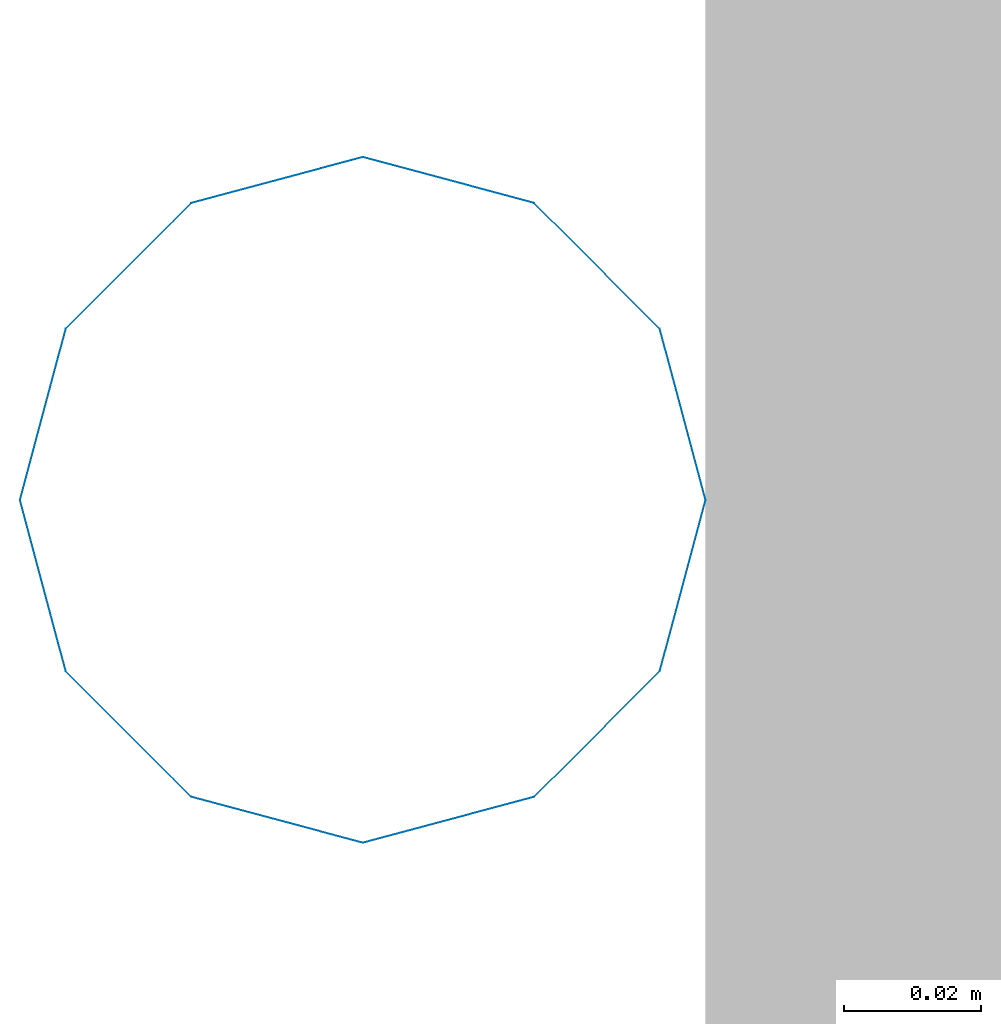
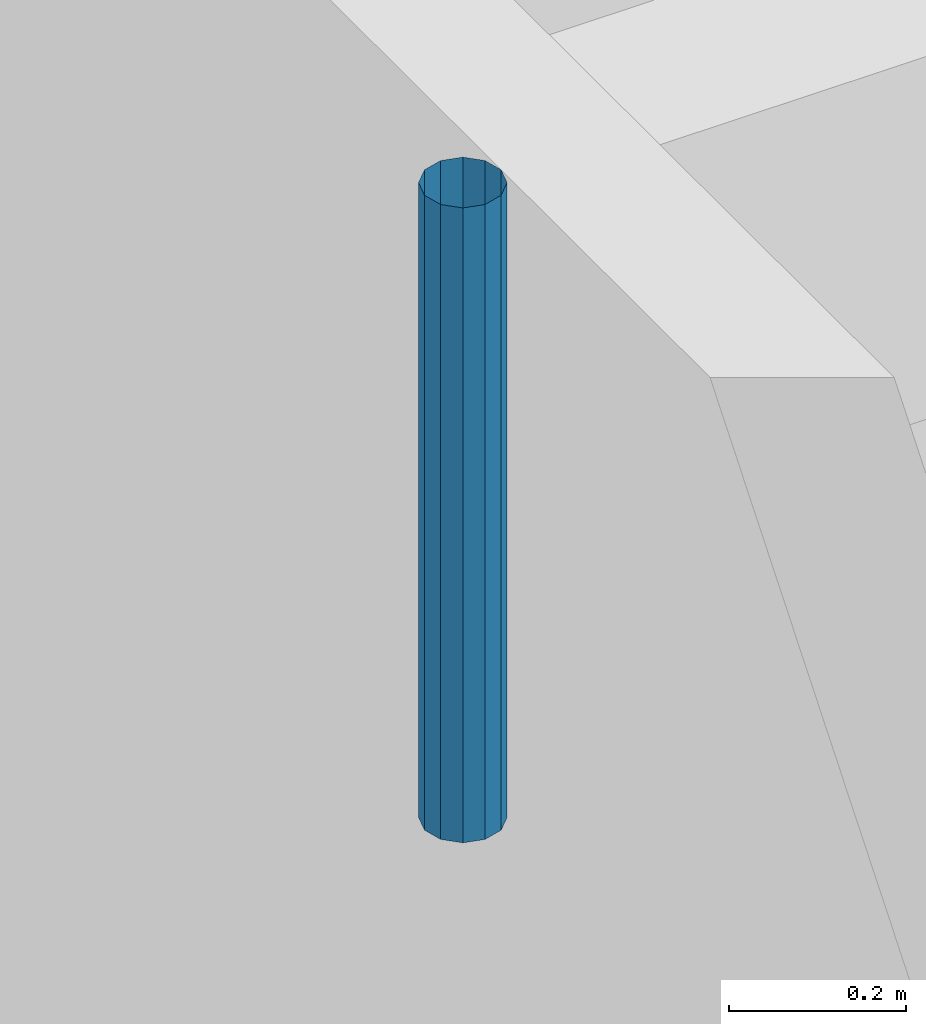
# One storey, part 35 of 41: 1 discrete accessory.
"""IFC2X3 building model written with IfcOpenShell, lengths in millimetres."""

from ifc_helpers import new_model, entity, si_unit, converted_unit, derived_unit, money_unit, direction, frame, origin_with_axes, place, context, subcontext, project, spatial, open_shell, surface_model, type_object, element, save


model = new_model("IFC2X3")

# Units and contexts
model_context = context("Model", 3, precision=0.01, world=origin_with_axes(), true_north=direction((0.0, 1.0)))
body_context = subcontext(model_context, "Body", "Model", "MODEL_VIEW")
ifc_project = project(units=[si_unit("LENGTHUNIT", "METRE", prefix="MILLI"), si_unit("AREAUNIT", "SQUARE_METRE"), si_unit("VOLUMEUNIT", "CUBIC_METRE"), converted_unit("PLANEANGLEUNIT", "DEGREE", entity("IfcPlaneAngleMeasure", 0.0174532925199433), si_unit("PLANEANGLEUNIT", "RADIAN"), dimensions=[0, 0, 0, 0, 0, 0, 0]), money_unit("USD"), converted_unit("TIMEUNIT", "Year", entity("IfcTimeMeasure", 31557600.0), si_unit("TIMEUNIT", "SECOND"), dimensions=[0, 0, 1, 0, 0, 0, 0]), si_unit("MASSUNIT", "GRAM", prefix="KILO"), si_unit("THERMODYNAMICTEMPERATUREUNIT", "DEGREE_CELSIUS"), si_unit("LUMINOUSINTENSITYUNIT", "LUMEN"), si_unit("ENERGYUNIT", "JOULE", prefix="MEGA"), derived_unit("THERMALCONDUCTANCEUNIT", [(si_unit("POWERUNIT", "WATT"), 1), (si_unit("LENGTHUNIT", "METRE"), -1), (si_unit("THERMODYNAMICTEMPERATUREUNIT", "KELVIN"), -1)]), derived_unit("SPECIFICHEATCAPACITYUNIT", [(si_unit("ENERGYUNIT", "JOULE"), 1), (si_unit("MASSUNIT", "GRAM", prefix="KILO"), -1), (si_unit("THERMODYNAMICTEMPERATUREUNIT", "KELVIN"), -1)]), derived_unit("MASSDENSITYUNIT", [(si_unit("MASSUNIT", "GRAM", prefix="KILO"), 1), (si_unit("VOLUMEUNIT", "CUBIC_METRE"), -1)])], contexts=[model_context])

# Site, building, storey
site_placement = place(None, origin_with_axes())
site = spatial("IfcSite", under=ifc_project, at=site_placement, Name="Site", CompositionType="ELEMENT")
building_placement = place(site_placement, origin_with_axes())
building = spatial("IfcBuilding", under=site, at=building_placement, Name="Bâtiment", CompositionType="ELEMENT")
storey_placement = place(building_placement, origin_with_axes())
storey = spatial("IfcBuildingStorey", under=building, at=storey_placement, Name="sousol", CompositionType="ELEMENT", Elevation=0.0)

# Discrete accessory
discrete_accessory_type = type_object("IfcDiscreteAccessoryType", Name="Tuyau descente 27")
discrete_accessory_placement = place(storey_placement, frame((2216584.233338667, -655091.4677782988, 2124.814296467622), z_axis=(0.0, 0.0, 1.0), x_axis=(1.0, 0.0, 0.0)))
element("IfcDiscreteAccessory", 1, at=discrete_accessory_placement, inside=storey, type_object=discrete_accessory_type, Name="Obj.-318", context=body_context, shape_type="SurfaceModel", body=[
    surface_model("IfcShellBasedSurfaceModel", [(50.0, 0.0, 875.1857035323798), (43.30127018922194, -25.0, 875.1857035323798), (43.30127018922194, -25.0, 0.0), (50.0, 0.0, 0.0), (25.00000000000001, -43.30127018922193, 875.1857035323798), (25.00000000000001, -43.30127018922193, 0.0), (43.30127018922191, 25.00000000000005, 875.1857035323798), (43.30127018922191, 25.00000000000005, 0.0), (0.0, -50.0, 875.1857035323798), (0.0, -50.0, 0.0), (24.99999999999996, 43.30127018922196, 875.1857035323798), (24.99999999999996, 43.30127018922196, 0.0), (-24.99999999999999, -43.30127018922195, 875.1857035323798), (-24.99999999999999, -43.30127018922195, 0.0), (0.0, 50.0, 875.1857035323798), (0.0, 50.0, 0.0), (-43.30127018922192, -25.00000000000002, 875.1857035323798), (-43.30127018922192, -25.00000000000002, 0.0), (-25.00000000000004, 43.30127018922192, 875.1857035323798), (-25.00000000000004, 43.30127018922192, 0.0), (-50.0, 0.0, 875.1857035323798), (-50.0, 0.0, 0.0), (-43.30127018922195, 24.99999999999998, 875.1857035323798), (-43.30127018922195, 24.99999999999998, 0.0)], [open_shell([[[0, 1, 2, 3]], [[1, 4, 5, 2]], [[6, 0, 3, 7]], [[4, 8, 9, 5]], [[10, 6, 7, 11]], [[8, 12, 13, 9]], [[14, 10, 11, 15]], [[12, 16, 17, 13]], [[18, 14, 15, 19]], [[16, 20, 21, 17]], [[22, 18, 19, 23]], [[20, 22, 23, 21]]])]),
])

save(model, "model.ifc")
